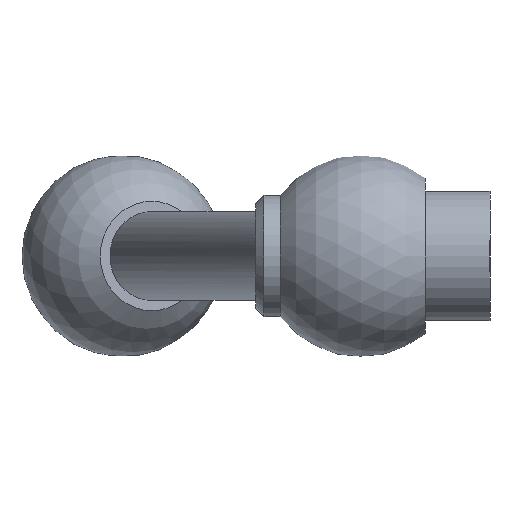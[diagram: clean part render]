
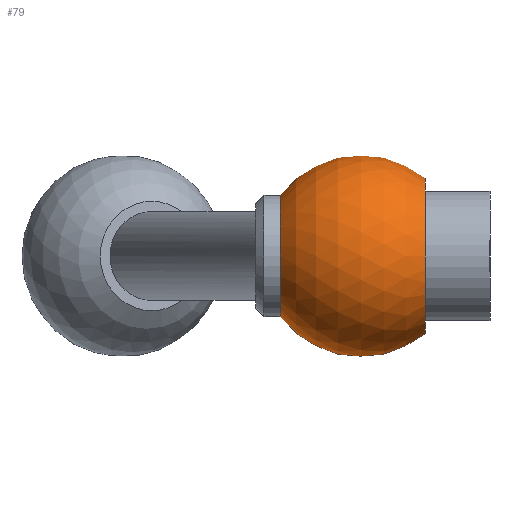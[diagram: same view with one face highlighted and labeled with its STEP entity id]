
A CAD part, left-side view. The second image highlights one B-rep face of the part: STEP entity #79.
In plain terms, the highlighted spherical face has radius 12.5 mm.
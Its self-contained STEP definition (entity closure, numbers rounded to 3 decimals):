
#79 = ADVANCED_FACE( '', ( #103, #104 ), #105, .T. );
#103 = FACE_OUTER_BOUND( '', #147, .T. );
#104 = FACE_OUTER_BOUND( '', #148, .T. );
#105 = SPHERICAL_SURFACE( '', #149, 12.5 );
#147 = EDGE_LOOP( '', ( #201, #202 ) );
#148 = EDGE_LOOP( '', ( #203 ) );
#149 = AXIS2_PLACEMENT_3D( '', #204, #205, #206 );
#201 = ORIENTED_EDGE( '', *, *, #262, .T. );
#202 = ORIENTED_EDGE( '', *, *, #259, .T. );
#203 = ORIENTED_EDGE( '', *, *, #264, .F. );
#204 = CARTESIAN_POINT( '', ( 0., 16., 0. ) );
#205 = DIRECTION( '', ( 0., -1., 0. ) );
#206 = DIRECTION( '', ( 1., 0., 0. ) );
#259 = EDGE_CURVE( '', #279, #280, #281, .T. );
#262 = EDGE_CURVE( '', #280, #279, #283, .T. );
#264 = EDGE_CURVE( '', #286, #286, #287, .T. );
#279 = VERTEX_POINT( '', #308 );
#280 = VERTEX_POINT( '', #309 );
#281 = B_SPLINE_CURVE_WITH_KNOTS( '', 3, ( #310, #311, #312, #313, #314, #315, #316, #317, #318, #319, #320, #321, #322, #323, #324, #325, #326, #327, #328, #329, #330, #331, #332, #333, #334, #335, #336, #337, #338, #339, #340, #341, #342, #343, #344, #345, #346, #347, #348, #349, #350, #351, #352, #353, #354, #355, #356, #357, #358, #359, #360, #361, #362, #363, #364, #365, #366, #367, #368, #369 ), .UNSPECIFIED., .F., .F., ( 4, 2, 2, 2, 2, 2, 2, 2, 2, 2, 2, 2, 2, 2, 2, 2, 2, 2, 2, 2, 2, 2, 2, 2, 2, 2, 2, 2, 2, 4 ), ( 0., 0.002, 0.004, 0.005, 0.005, 0.006, 0.007, 0.008, 0.009, 0.01, 0.011, 0.012, 0.013, 0.014, 0.015, 0.015, 0.016, 0.017, 0.018, 0.019, 0.02, 0.021, 0.022, 0.023, 0.024, 0.024, 0.025, 0.026, 0.027, 0.029 ), .UNSPECIFIED. );
#283 = CIRCLE( '', #384, 7.5 );
#286 = VERTEX_POINT( '', #387 );
#287 = CIRCLE( '', #388, 9.605 );
#308 = CARTESIAN_POINT( '', ( 6.981, 26., -2.74 ) );
#309 = CARTESIAN_POINT( '', ( 6.981, 26., 2.74 ) );
#310 = CARTESIAN_POINT( '', ( 6.981, 26., -2.74 ) );
#311 = CARTESIAN_POINT( '', ( 7.149, 25.738, -3.269 ) );
#312 = CARTESIAN_POINT( '', ( 7.359, 25.41, -3.732 ) );
#313 = CARTESIAN_POINT( '', ( 7.856, 24.625, -4.53 ) );
#314 = CARTESIAN_POINT( '', ( 8.132, 24.187, -4.845 ) );
#315 = CARTESIAN_POINT( '', ( 8.582, 23.466, -5.192 ) );
#316 = CARTESIAN_POINT( '', ( 8.736, 23.219, -5.284 ) );
#317 = CARTESIAN_POINT( '', ( 9.046, 22.718, -5.42 ) );
#318 = CARTESIAN_POINT( '', ( 9.203, 22.463, -5.465 ) );
#319 = CARTESIAN_POINT( '', ( 9.522, 21.945, -5.507 ) );
#320 = CARTESIAN_POINT( '', ( 9.682, 21.683, -5.504 ) );
#321 = CARTESIAN_POINT( '', ( 9.996, 21.169, -5.449 ) );
#322 = CARTESIAN_POINT( '', ( 10.151, 20.914, -5.398 ) );
#323 = CARTESIAN_POINT( '', ( 10.457, 20.41, -5.248 ) );
#324 = CARTESIAN_POINT( '', ( 10.608, 20.161, -5.148 ) );
#325 = CARTESIAN_POINT( '', ( 10.895, 19.685, -4.906 ) );
#326 = CARTESIAN_POINT( '', ( 11.032, 19.457, -4.764 ) );
#327 = CARTESIAN_POINT( '', ( 11.294, 19.019, -4.435 ) );
#328 = CARTESIAN_POINT( '', ( 11.42, 18.808, -4.247 ) );
#329 = CARTESIAN_POINT( '', ( 11.65, 18.422, -3.84 ) );
#330 = CARTESIAN_POINT( '', ( 11.756, 18.245, -3.62 ) );
#331 = CARTESIAN_POINT( '', ( 11.948, 17.921, -3.145 ) );
#332 = CARTESIAN_POINT( '', ( 12.036, 17.773, -2.888 ) );
#333 = CARTESIAN_POINT( '', ( 12.185, 17.521, -2.356 ) );
#334 = CARTESIAN_POINT( '', ( 12.248, 17.414, -2.08 ) );
#335 = CARTESIAN_POINT( '', ( 12.35, 17.242, -1.508 ) );
#336 = CARTESIAN_POINT( '', ( 12.389, 17.175, -1.21 ) );
#337 = CARTESIAN_POINT( '', ( 12.441, 17.087, -0.61 ) );
#338 = CARTESIAN_POINT( '', ( 12.454, 17.065, -0.309 ) );
#339 = CARTESIAN_POINT( '', ( 12.455, 17.064, 0.297 ) );
#340 = CARTESIAN_POINT( '', ( 12.442, 17.086, 0.605 ) );
#341 = CARTESIAN_POINT( '', ( 12.39, 17.174, 1.204 ) );
#342 = CARTESIAN_POINT( '', ( 12.352, 17.239, 1.497 ) );
#343 = CARTESIAN_POINT( '', ( 12.25, 17.41, 2.069 ) );
#344 = CARTESIAN_POINT( '', ( 12.186, 17.519, 2.351 ) );
#345 = CARTESIAN_POINT( '', ( 12.037, 17.771, 2.884 ) );
#346 = CARTESIAN_POINT( '', ( 11.952, 17.915, 3.136 ) );
#347 = CARTESIAN_POINT( '', ( 11.76, 18.238, 3.611 ) );
#348 = CARTESIAN_POINT( '', ( 11.652, 18.419, 3.837 ) );
#349 = CARTESIAN_POINT( '', ( 11.421, 18.806, 4.245 ) );
#350 = CARTESIAN_POINT( '', ( 11.298, 19.012, 4.43 ) );
#351 = CARTESIAN_POINT( '', ( 11.036, 19.449, 4.758 ) );
#352 = CARTESIAN_POINT( '', ( 10.897, 19.682, 4.904 ) );
#353 = CARTESIAN_POINT( '', ( 10.609, 20.159, 5.148 ) );
#354 = CARTESIAN_POINT( '', ( 10.461, 20.404, 5.246 ) );
#355 = CARTESIAN_POINT( '', ( 10.157, 20.906, 5.396 ) );
#356 = CARTESIAN_POINT( '', ( 9.999, 21.165, 5.449 ) );
#357 = CARTESIAN_POINT( '', ( 9.683, 21.683, 5.504 ) );
#358 = CARTESIAN_POINT( '', ( 9.525, 21.941, 5.507 ) );
#359 = CARTESIAN_POINT( '', ( 9.208, 22.455, 5.466 ) );
#360 = CARTESIAN_POINT( '', ( 9.049, 22.713, 5.422 ) );
#361 = CARTESIAN_POINT( '', ( 8.736, 23.218, 5.284 ) );
#362 = CARTESIAN_POINT( '', ( 8.583, 23.463, 5.193 ) );
#363 = CARTESIAN_POINT( '', ( 8.287, 23.939, 4.965 ) );
#364 = CARTESIAN_POINT( '', ( 8.142, 24.169, 4.828 ) );
#365 = CARTESIAN_POINT( '', ( 7.864, 24.612, 4.51 ) );
#366 = CARTESIAN_POINT( '', ( 7.733, 24.819, 4.332 ) );
#367 = CARTESIAN_POINT( '', ( 7.365, 25.401, 3.742 ) );
#368 = CARTESIAN_POINT( '', ( 7.149, 25.738, 3.269 ) );
#369 = CARTESIAN_POINT( '', ( 6.981, 26., 2.74 ) );
#384 = AXIS2_PLACEMENT_3D( '', #412, #413, #414 );
#387 = CARTESIAN_POINT( '', ( 9.605, 8., 0. ) );
#388 = AXIS2_PLACEMENT_3D( '', #418, #419, #420 );
#412 = CARTESIAN_POINT( '', ( 0., 26., 0. ) );
#413 = DIRECTION( '', ( 0., -1., 0. ) );
#414 = DIRECTION( '', ( 1., 0., 0. ) );
#418 = CARTESIAN_POINT( '', ( 0., 8., 0. ) );
#419 = DIRECTION( '', ( 0., -1., 0. ) );
#420 = DIRECTION( '', ( 1., 0., 0. ) );
